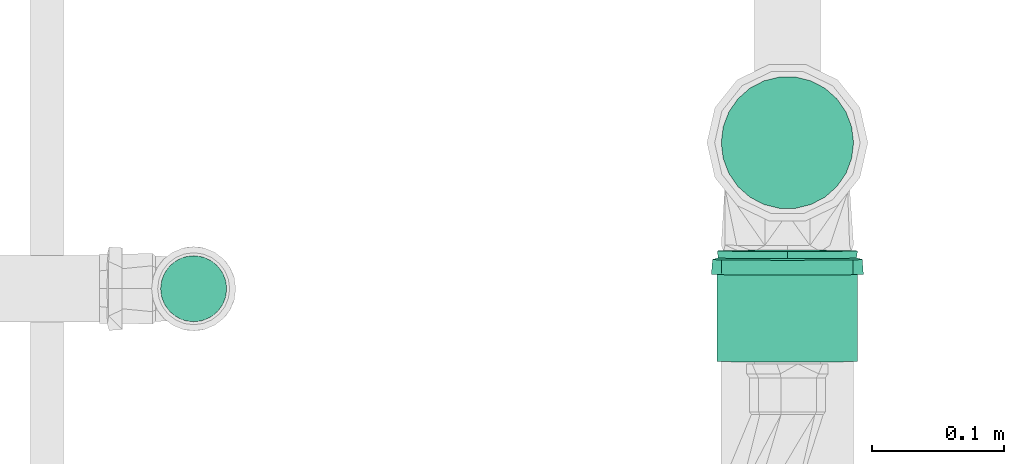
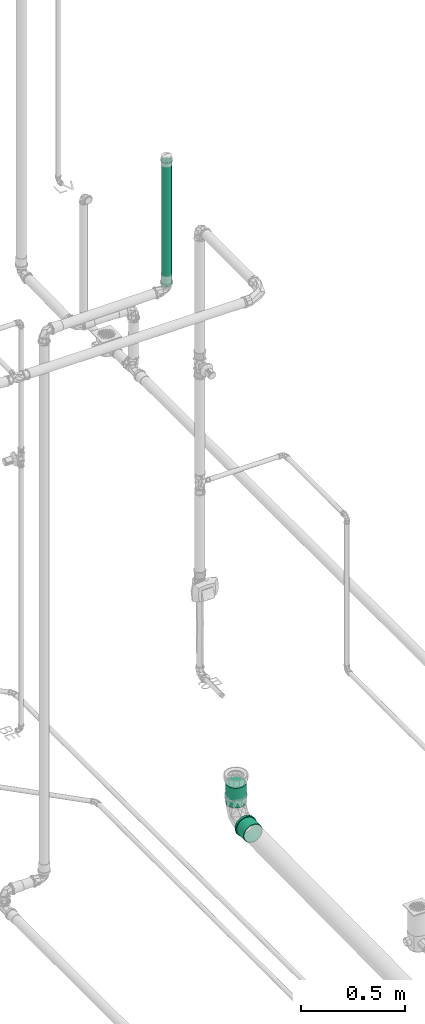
# One storey, part 159 of 589: 2 flow segments, 1 flow fitting.
"""IFC2X3 building model written with IfcOpenShell, lengths in millimetres."""

from ifc_helpers import new_model, entity, si_unit, converted_unit, derived_unit, direction, frame, origin, origin_2d_with_axis, place, context, subcontext, project, spatial, circle, extrude, faceted_brep, source, transform, mapped, material, type_object, type_shapes, element, save


model = new_model("IFC2X3")

# Units and contexts
model_context = context("Model", 3, precision=0.01, world=origin(), true_north=direction((6.123031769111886e-17, 1.0)))
body_context = subcontext(model_context, "Body", "Model", "MODEL_VIEW")
ifc_project = project(units=[si_unit("LENGTHUNIT", "METRE", prefix="MILLI"), si_unit("AREAUNIT", "SQUARE_METRE"), si_unit("VOLUMEUNIT", "CUBIC_METRE"), converted_unit("PLANEANGLEUNIT", "DEGREE", entity("IfcRatioMeasure", 0.017453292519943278), si_unit("PLANEANGLEUNIT", "RADIAN"), dimensions=[0, 0, 0, 0, 0, 0, 0]), si_unit("MASSUNIT", "GRAM", prefix="KILO"), derived_unit("MASSDENSITYUNIT", [(si_unit("MASSUNIT", "GRAM", prefix="KILO"), 1), (si_unit("LENGTHUNIT", "METRE"), -3)]), derived_unit("IONCONCENTRATIONUNIT", [(si_unit("MASSUNIT", "GRAM", prefix="KILO"), 1), (si_unit("LENGTHUNIT", "METRE"), -3)]), derived_unit("MOMENTOFINERTIAUNIT", [(si_unit("LENGTHUNIT", "METRE"), 4)]), si_unit("TIMEUNIT", "SECOND"), si_unit("FREQUENCYUNIT", "HERTZ"), si_unit("THERMODYNAMICTEMPERATUREUNIT", "DEGREE_CELSIUS"), derived_unit("THERMALTRANSMITTANCEUNIT", [(si_unit("MASSUNIT", "GRAM", prefix="KILO"), 1), (si_unit("THERMODYNAMICTEMPERATUREUNIT", "KELVIN"), -1), (si_unit("TIMEUNIT", "SECOND"), -3)]), derived_unit("THERMALCONDUCTANCEUNIT", [(si_unit("MASSUNIT", "GRAM", prefix="KILO"), 1), (si_unit("THERMODYNAMICTEMPERATUREUNIT", "KELVIN"), -1), (si_unit("TIMEUNIT", "SECOND"), -3), (si_unit("LENGTHUNIT", "METRE"), 1)]), derived_unit("VOLUMETRICFLOWRATEUNIT", [(si_unit("LENGTHUNIT", "METRE"), 3), (si_unit("TIMEUNIT", "SECOND"), -1)]), derived_unit("MASSFLOWRATEUNIT", [(si_unit("MASSUNIT", "GRAM", prefix="KILO"), 1), (si_unit("TIMEUNIT", "SECOND"), -1)]), derived_unit("ROTATIONALFREQUENCYUNIT", [(si_unit("TIMEUNIT", "SECOND"), -1)]), si_unit("ELECTRICCURRENTUNIT", "AMPERE"), si_unit("ELECTRICVOLTAGEUNIT", "VOLT"), si_unit("POWERUNIT", "WATT"), si_unit("FORCEUNIT", "NEWTON", prefix="KILO"), si_unit("ILLUMINANCEUNIT", "LUX"), si_unit("LUMINOUSFLUXUNIT", "LUMEN"), si_unit("LUMINOUSINTENSITYUNIT", "CANDELA"), derived_unit("USERDEFINED", [(si_unit("MASSUNIT", "GRAM", prefix="KILO"), -1), (si_unit("LENGTHUNIT", "METRE"), -2), (si_unit("TIMEUNIT", "SECOND"), 3), (si_unit("LUMINOUSFLUXUNIT", "LUMEN"), 1)]), derived_unit("USERDEFINED", [(si_unit("MASSUNIT", "GRAM", prefix="KILO"), 1), (si_unit("TIMEUNIT", "SECOND"), -3), (si_unit("LENGTHUNIT", "METRE"), 3), (si_unit("ELECTRICCURRENTUNIT", "AMPERE"), -2)]), derived_unit("SOUNDPOWERUNIT", [(si_unit("MASSUNIT", "GRAM", prefix="KILO"), 1), (si_unit("TIMEUNIT", "SECOND"), -3), (si_unit("LENGTHUNIT", "METRE"), 2)]), derived_unit("SOUNDPRESSUREUNIT", [(si_unit("MASSUNIT", "GRAM", prefix="KILO"), 1), (si_unit("LENGTHUNIT", "METRE"), -1), (si_unit("TIMEUNIT", "SECOND"), -2)]), derived_unit("LINEARVELOCITYUNIT", [(si_unit("LENGTHUNIT", "METRE"), 1), (si_unit("TIMEUNIT", "SECOND"), -1)]), si_unit("PRESSUREUNIT", "PASCAL"), derived_unit("USERDEFINED", [(si_unit("MASSUNIT", "GRAM", prefix="KILO"), 1), (si_unit("LENGTHUNIT", "METRE"), -2), (si_unit("TIMEUNIT", "SECOND"), -2)]), derived_unit("LINEARFORCEUNIT", [(si_unit("MASSUNIT", "GRAM", prefix="KILO"), 1), (si_unit("TIMEUNIT", "SECOND"), -2)]), derived_unit("PLANARFORCEUNIT", [(si_unit("MASSUNIT", "GRAM", prefix="KILO"), 1), (si_unit("LENGTHUNIT", "METRE"), -1), (si_unit("TIMEUNIT", "SECOND"), -2)]), derived_unit("SPECIFICHEATCAPACITYUNIT", [(si_unit("THERMODYNAMICTEMPERATUREUNIT", "KELVIN"), -1), (si_unit("LENGTHUNIT", "METRE"), 2), (si_unit("TIMEUNIT", "SECOND"), -2)]), derived_unit("HEATINGVALUEUNIT", [(si_unit("LENGTHUNIT", "METRE"), 2), (si_unit("TIMEUNIT", "SECOND"), -2)]), derived_unit("VAPORPERMEABILITYUNIT", [(si_unit("LENGTHUNIT", "METRE"), -1), (si_unit("TIMEUNIT", "SECOND"), 1)]), derived_unit("DYNAMICVISCOSITYUNIT", [(si_unit("MASSUNIT", "GRAM", prefix="KILO"), 1), (si_unit("TIMEUNIT", "SECOND"), -1), (si_unit("LENGTHUNIT", "METRE"), -1)]), derived_unit("THERMALEXPANSIONCOEFFICIENTUNIT", [(si_unit("THERMODYNAMICTEMPERATUREUNIT", "KELVIN"), -1)]), derived_unit("MODULUSOFELASTICITYUNIT", [(si_unit("MASSUNIT", "GRAM", prefix="KILO"), 1), (si_unit("LENGTHUNIT", "METRE"), -1), (si_unit("TIMEUNIT", "SECOND"), -2)]), derived_unit("ISOTHERMALMOISTURECAPACITYUNIT", [(si_unit("LENGTHUNIT", "METRE"), 3), (si_unit("MASSUNIT", "GRAM", prefix="KILO"), -1)]), derived_unit("MOISTUREDIFFUSIVITYUNIT", [(si_unit("TIMEUNIT", "SECOND"), -1), (si_unit("LENGTHUNIT", "METRE"), 2)])], contexts=[model_context])

# Site, building, storey
site_placement = place(None, origin())
site = spatial("IfcSite", under=ifc_project, at=site_placement, Name="Default", CompositionType="ELEMENT")
building_placement = place(site_placement, origin())
building = spatial("IfcBuilding", under=site, at=building_placement, CompositionType="ELEMENT")
storey_placement = place(building_placement, frame((0.0, 0.0, 100.0)))
storey = spatial("IfcBuildingStorey", under=building, at=storey_placement, Name="TÉRREO", CompositionType="ELEMENT", Elevation=100.0)

# Flow segments
pipe_segment_type = type_object("IfcPipeSegmentType", Name="Tipos de tubos:PVC Esgoto Série Normal", PredefinedType="NOTDEFINED")
flow_segment_1_placement = place(storey_placement, origin())
element("IfcFlowSegment", 1, at=flow_segment_1_placement, inside=storey, type_object=pipe_segment_type, Name="Tipos de tubos:PVC Esgoto Série Normal", ObjectType="Tipos de tubos:PVC Esgoto Série Normal", context=body_context, shape_type="SweptSolid", body=[
    extrude(circle(Radius=50.0, at=origin_2d_with_axis()), frame((8798.14218843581, -8312.5312838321, -165.97769235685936)), (0.0, 0.0, 1.0), 115.97769235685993),
])
flow_segment_2_placement = place(storey_placement, origin())
element("IfcFlowSegment", 2, at=flow_segment_2_placement, inside=storey, type_object=pipe_segment_type, Name="Tipos de tubos:PVC Esgoto Série Normal", ObjectType="Tipos de tubos:PVC Esgoto Série Normal", context=body_context, shape_type="SweptSolid", body=[
    extrude(circle(Radius=25.0, at=origin_2d_with_axis()), frame((8349.442851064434, -8422.906307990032, 3099.9412999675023), z_axis=(0.0, 0.0, 1.0), x_axis=(-1.0, 0.0, 0.0)), (0.0, 0.0, 1.0), 727.7587000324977),
])

# Flow fitting
ifc_material = material(Name="PVC Série Normal")
pipe_fitting_type = type_object("IfcPipeFittingType", Name="PVC Esgoto_Luva Simples para Conexão_Rodrigo MEP:Standard", PredefinedType="NOTDEFINED", material=ifc_material)
shared_shape = source(origin(), body_context, "Body", "Brep", [
    faceted_brep([(17.770000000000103, 28.72500000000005, -49.753159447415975), (17.770000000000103, 40.62328457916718, -40.62328457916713), (17.770000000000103, 26.524999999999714, -45.94264767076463), (17.770000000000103, 13.730350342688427, -51.242365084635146), (17.770000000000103, 14.86915414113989, -55.49243872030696), (17.770000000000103, 37.5120147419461, -37.51201474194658), (17.770000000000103, 49.75315944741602, -28.724999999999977), (17.770000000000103, 45.94264767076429, -26.52500000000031), (17.770000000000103, 51.24236508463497, -13.730350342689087), (17.770000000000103, 55.49243872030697, -14.869154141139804), (17.770000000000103, 53.05, 0.0), (17.770000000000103, 57.45, 0.0), (17.770000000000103, 51.242365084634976, 13.730350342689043), (17.770000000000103, 55.49243872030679, 14.869154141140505), (17.770000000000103, 45.942647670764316, 26.52500000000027), (17.770000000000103, 49.753159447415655, 28.725000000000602), (17.770000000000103, 37.51201474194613, 37.51201474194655), (17.770000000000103, 40.62328457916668, 40.62328457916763), (17.770000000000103, 26.524999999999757, 45.9426476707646), (17.770000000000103, 28.72499999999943, 49.75315944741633), (17.770000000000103, 13.730350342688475, 51.24236508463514), (17.770000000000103, 14.8691541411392, 55.49243872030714), (17.770000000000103, 0.0, 53.05), (17.770000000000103, 0.0, 57.45), (17.770000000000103, -13.730350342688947, 51.24236508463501), (17.770000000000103, -14.869154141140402, 55.49243872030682), (17.770000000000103, -26.52500000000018, 45.94264767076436), (17.770000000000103, -28.725000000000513, 49.753159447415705), (17.770000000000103, -37.51201474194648, 37.5120147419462), (17.770000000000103, -40.62328457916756, 40.62328457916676), (17.770000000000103, -45.94264767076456, 26.524999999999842), (17.770000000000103, -49.7531594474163, 28.724999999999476), (17.770000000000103, -55.49243872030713, 14.869154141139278), (17.770000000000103, -51.24236508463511, 13.730350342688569), (17.770000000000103, -57.45, 0.0), (17.770000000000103, -53.05, 0.0), (17.770000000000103, -55.49243872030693, -14.86915414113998), (17.770000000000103, -51.24236508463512, -13.73035034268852), (17.770000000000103, -49.75315944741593, -28.72500000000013), (17.770000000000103, -45.942647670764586, -26.5249999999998), (17.770000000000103, -40.62328457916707, -40.62328457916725), (17.770000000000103, -37.512014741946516, -37.51201474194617), (17.770000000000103, -28.724999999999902, -49.75315944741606), (17.770000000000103, -26.525000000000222, -45.94264767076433), (17.770000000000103, -14.869154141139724, -55.492438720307), (17.770000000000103, -13.730350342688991, -51.242365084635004), (17.770000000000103, 0.0, -57.45), (17.770000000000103, 0.0, -53.05), (6.570000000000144, -19.34638876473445, 53.16657713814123), (6.57000000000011, -44.00761900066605, 36.93009572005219), (6.5700000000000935, -48.99626263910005, 28.290173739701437), (6.5700000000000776, -53.98490627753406, 19.65025175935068), (6.570000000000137, -28.721697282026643, 49.75506612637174), (6.570000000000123, -36.36465814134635, 43.34258092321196), (6.57000000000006, -55.71745313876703, 9.825125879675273), (6.570000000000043, -57.45, 0.0), (6.570000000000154, -9.971080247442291, 56.57808814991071), (6.570000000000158, 9.98234714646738, 56.576101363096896), (6.570000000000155, 0.005633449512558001, 56.577094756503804), (6.570000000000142, 36.37328876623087, 43.33533831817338), (6.570000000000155, 19.356976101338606, 53.16272339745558), (6.570000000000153, 28.73160505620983, 49.749345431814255), (6.5700000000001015, 53.988818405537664, 19.639500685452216), (6.570000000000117, 49.00189544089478, 28.280415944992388), (6.570000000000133, 44.01497247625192, 36.921331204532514), (6.570000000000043, 57.45, 0.0), (6.569999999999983, 44.01497247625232, -36.92133120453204), (6.569999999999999, 49.0018954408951, -28.280415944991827), (6.570000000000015, 53.98881840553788, -19.63950068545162), (6.569999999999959, 28.731605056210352, -49.74934543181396), (6.569999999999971, 36.37328876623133, -43.335338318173), (6.569999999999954, 19.35697610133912, -53.16272339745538), (6.569999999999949, 9.982347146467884, -56.57610136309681), (6.569999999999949, -9.97108024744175, -56.578088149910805), (6.569999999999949, 0.005633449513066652, -56.577094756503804), (6.569999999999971, -36.364658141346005, -43.34258092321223), (6.56999999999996, -28.72169728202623, -49.755066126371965), (6.569999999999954, -19.346388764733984, -53.16657713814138), (6.57000000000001, -53.984906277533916, -19.650251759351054), (6.569999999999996, -48.99626263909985, -28.290173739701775), (6.569999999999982, -44.007619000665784, -36.93009572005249), (6.570000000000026, -55.717453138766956, -9.825125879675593), (83.52000000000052, 26.525000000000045, -45.942647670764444), (83.52000000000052, 37.512014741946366, -37.51201474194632), (83.52000000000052, 25.0, -43.301270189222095), (83.52000000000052, 12.940952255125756, -48.2962913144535), (83.52000000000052, 13.73035034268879, -51.242365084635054), (83.52000000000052, 35.35533905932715, -35.355339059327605), (83.52000000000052, 45.94264767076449, -26.524999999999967), (83.52000000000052, 43.30127018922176, -25.0), (83.52000000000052, 48.29629131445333, -12.940952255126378), (83.52000000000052, 51.24236508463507, -13.730350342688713), (83.52000000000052, 50.0, 0.0), (83.52000000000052, 53.05, 0.0), (83.52000000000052, 48.296291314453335, 12.940952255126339), (83.52000000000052, 51.2423650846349, 13.73035034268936), (83.52000000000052, 43.30127018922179, 25.0), (83.52000000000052, 45.942647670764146, 26.525000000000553), (83.52000000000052, 35.35533905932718, 35.35533905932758), (83.52000000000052, 37.512014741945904, 37.512014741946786), (83.52000000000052, 25.0, 43.301270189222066), (83.52000000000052, 26.52499999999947, 45.94264767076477), (83.52000000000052, 12.9409522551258, 48.29629131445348), (83.52000000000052, 13.730350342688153, 51.242365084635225), (83.52000000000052, 0.0, 50.0), (83.52000000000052, 0.0, 53.05), (83.52000000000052, -12.94095225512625, 48.296291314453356), (83.52000000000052, -13.730350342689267, 51.24236508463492), (83.52000000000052, -25.0, 43.30127018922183), (83.52000000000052, -26.525000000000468, 45.942647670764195), (83.52000000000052, -35.355339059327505, 35.35533905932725), (83.52000000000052, -37.512014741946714, 37.51201474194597), (83.52000000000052, -43.30127018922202, 25.0), (83.52000000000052, -45.942647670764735, 26.524999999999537), (83.52000000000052, -51.24236508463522, 13.730350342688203), (83.52000000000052, -48.29629131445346, 12.94095225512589), (83.52000000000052, -53.05, 0.0), (83.52000000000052, -50.0, 0.0), (83.52000000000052, -51.242365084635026, -13.730350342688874), (83.52000000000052, -48.29629131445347, -12.940952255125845), (83.52000000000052, -45.9426476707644, -26.525000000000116), (83.52000000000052, -43.301270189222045, -25.0), (83.52000000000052, -37.51201474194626, -37.51201474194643), (83.52000000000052, -35.35533905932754, -35.355339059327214), (83.52000000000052, -26.524999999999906, -45.94264767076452), (83.52000000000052, -25.0, -43.30127018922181), (83.52000000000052, -13.730350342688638, -51.2423650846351), (83.52000000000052, -12.94095225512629, -48.29629131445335), (83.52000000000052, 0.0, -53.05), (83.52000000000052, 0.0, -50.0), (0.0, 25.0, -43.301270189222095), (0.0, 37.512014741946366, -37.51201474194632), (0.0, 26.525000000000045, -45.942647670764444), (0.0, 12.940952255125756, -48.2962913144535), (0.0, 35.35533905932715, -35.355339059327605), (0.0, 45.94264767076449, -26.524999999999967), (0.0, 43.30127018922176, -25.0), (0.0, 48.29629131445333, -12.940952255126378), (0.0, 51.24236508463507, -13.730350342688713), (0.0, 50.0, 0.0), (0.0, 53.05, 0.0), (0.0, 48.296291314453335, 12.940952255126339), (0.0, 51.2423650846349, 13.73035034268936), (0.0, 43.30127018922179, 25.0), (0.0, 45.942647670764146, 26.525000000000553), (0.0, 35.35533905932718, 35.35533905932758), (0.0, 37.512014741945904, 37.512014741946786), (0.0, 25.0, 43.301270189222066), (0.0, 26.52499999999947, 45.94264767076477), (0.0, 12.9409522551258, 48.29629131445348), (0.0, 13.730350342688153, 51.242365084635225), (0.0, 0.0, 50.0), (0.0, 0.0, 53.05), (0.0, -12.94095225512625, 48.296291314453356), (0.0, -13.730350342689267, 51.24236508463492), (0.0, -25.0, 43.30127018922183), (0.0, -26.525000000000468, 45.942647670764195), (0.0, -35.355339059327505, 35.35533905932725), (0.0, -37.512014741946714, 37.51201474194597), (0.0, -43.30127018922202, 25.0), (0.0, -45.942647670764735, 26.524999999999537), (0.0, -51.24236508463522, 13.730350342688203), (0.0, -48.29629131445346, 12.94095225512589), (0.0, -53.05, 0.0), (0.0, -50.0, 0.0), (0.0, -51.242365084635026, -13.730350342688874), (0.0, -48.29629131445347, -12.940952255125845), (0.0, -45.9426476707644, -26.525000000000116), (0.0, -43.301270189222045, -25.0), (0.0, -37.51201474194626, -37.51201474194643), (0.0, -35.35533905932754, -35.355339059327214), (0.0, -26.524999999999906, -45.94264767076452), (0.0, -25.0, -43.30127018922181), (0.0, -13.730350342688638, -51.2423650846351), (0.0, -12.94095225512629, -48.29629131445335), (0.0, 0.0, -53.05), (0.0, 0.0, -50.0), (0.0, 13.73035034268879, -51.242365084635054), (5.370000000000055, -53.05, 0.0), (5.370000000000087, -49.85079898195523, 18.143878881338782), (5.370000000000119, -40.63905406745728, 34.09941032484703), (5.370000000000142, -26.525801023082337, 45.942185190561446), (5.3700000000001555, -9.213250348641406, 52.24383712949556), (5.370000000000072, 51.44992493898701, 9.073243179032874), (5.370000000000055, 53.05, 0.0), (5.370000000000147, 26.523397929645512, 45.943572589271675), (5.370000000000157, 9.210517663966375, 52.244318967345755), (5.3700000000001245, 40.63727040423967, 34.10153594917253), (5.370000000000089, 49.84984987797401, 18.146486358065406), (5.370000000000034, 51.4499249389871, -9.073243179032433), (5.370000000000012, 49.84984987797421, -18.146486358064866), (5.369999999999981, 40.63727040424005, -34.101535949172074), (5.36999999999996, 26.523397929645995, -45.9435725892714), (5.369999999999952, 9.21051766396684, -52.24431896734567), (5.369999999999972, -26.52580102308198, -45.94218519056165), (5.369999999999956, -9.213250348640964, -52.24383712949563), (5.369999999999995, -40.63905406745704, -34.099410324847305), (5.370000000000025, -49.8507989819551, -18.143878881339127), (50.0, -50.0, 0.0), (50.0, 50.0, 0.0)], [[[0, 1, 2]], [[0, 2, 3]], [[3, 4, 0]], [[2, 1, 5]], [[6, 5, 1]], [[5, 6, 7]], [[7, 6, 8]], [[9, 8, 6]], [[9, 10, 8]], [[10, 9, 11]], [[12, 10, 11]], [[11, 13, 12]], [[12, 13, 14]], [[15, 14, 13]], [[14, 15, 16]], [[16, 15, 17]], [[18, 16, 17]], [[17, 19, 18]], [[18, 19, 20]], [[21, 20, 19]], [[20, 21, 22]], [[22, 21, 23]], [[22, 23, 24]], [[24, 23, 25]], [[24, 25, 26]], [[27, 26, 25]], [[27, 28, 26]], [[28, 27, 29]], [[29, 30, 28]], [[31, 30, 29]], [[30, 31, 32]], [[32, 33, 30]], [[34, 33, 32]], [[34, 35, 33]], [[36, 35, 34]], [[36, 37, 35]], [[37, 36, 38]], [[38, 39, 37]], [[39, 38, 40]], [[39, 40, 41]], [[40, 42, 41]], [[41, 42, 43]], [[43, 42, 44]], [[44, 45, 43]], [[46, 45, 44]], [[4, 47, 46]], [[46, 47, 45]], [[4, 3, 47]], [[48, 27, 25]], [[31, 29, 49]], [[31, 49, 50, 51]], [[52, 53, 27]], [[32, 51, 54]], [[54, 55, 34]], [[54, 34, 32]], [[25, 56, 48]], [[49, 29, 53]], [[23, 57, 58, 56]], [[59, 19, 17]], [[27, 53, 29]], [[48, 52, 27]], [[31, 51, 32]], [[57, 23, 21]], [[60, 19, 61]], [[15, 62, 63, 64]], [[19, 60, 21]], [[15, 13, 62]], [[17, 64, 59]], [[57, 21, 60]], [[23, 56, 25]], [[15, 64, 17]], [[13, 65, 62]], [[13, 11, 65]], [[59, 61, 19]], [[65, 11, 9]], [[6, 1, 66]], [[6, 66, 67, 68]], [[69, 70, 0]], [[68, 65, 9]], [[71, 69, 0]], [[71, 0, 4]], [[4, 72, 71]], [[66, 1, 70]], [[46, 73, 74, 72]], [[75, 76, 42]], [[0, 70, 1]], [[75, 42, 40]], [[6, 68, 9]], [[73, 46, 44]], [[77, 42, 76]], [[38, 78, 79, 80]], [[42, 77, 44]], [[38, 36, 78]], [[40, 80, 75]], [[73, 44, 77]], [[46, 72, 4]], [[38, 80, 40]], [[81, 78, 36]], [[55, 81, 34]], [[34, 81, 36]], [[82, 83, 84]], [[82, 84, 85]], [[85, 86, 82]], [[84, 83, 87]], [[88, 87, 83]], [[87, 88, 89]], [[89, 88, 90]], [[91, 90, 88]], [[91, 92, 90]], [[92, 91, 93]], [[94, 92, 93]], [[93, 95, 94]], [[94, 95, 96]], [[97, 96, 95]], [[96, 97, 98]], [[98, 97, 99]], [[100, 98, 99]], [[99, 101, 100]], [[100, 101, 102]], [[103, 102, 101]], [[102, 103, 104]], [[104, 103, 105]], [[104, 105, 106]], [[106, 105, 107]], [[106, 107, 108]], [[109, 108, 107]], [[110, 108, 109]], [[110, 109, 111]], [[111, 112, 110]], [[113, 112, 111]], [[112, 113, 114]], [[114, 115, 112]], [[116, 115, 114]], [[116, 117, 115]], [[118, 117, 116]], [[118, 119, 117]], [[119, 118, 120]], [[120, 121, 119]], [[121, 120, 122]], [[121, 122, 123]], [[122, 124, 123]], [[125, 123, 124]], [[125, 124, 126]], [[126, 127, 125]], [[128, 127, 126]], [[86, 129, 128]], [[128, 129, 127]], [[86, 85, 129]], [[130, 131, 132]], [[133, 130, 132]], [[134, 131, 130]], [[131, 134, 135]], [[136, 135, 134]], [[137, 135, 136]], [[135, 137, 138]], [[137, 139, 138]], [[140, 138, 139]], [[140, 139, 141]], [[141, 142, 140]], [[143, 142, 141]], [[142, 143, 144]], [[145, 144, 143]], [[146, 144, 145]], [[146, 145, 147]], [[147, 148, 146]], [[149, 148, 147]], [[148, 149, 150]], [[151, 150, 149]], [[152, 150, 151]], [[153, 152, 151]], [[154, 152, 153]], [[155, 154, 153]], [[154, 155, 156]], [[156, 155, 157]], [[158, 156, 157]], [[157, 159, 158]], [[158, 159, 160]], [[161, 160, 159]], [[159, 162, 161]], [[161, 162, 163]], [[162, 164, 163]], [[163, 164, 165]], [[164, 166, 165]], [[167, 165, 166]], [[166, 168, 167]], [[169, 167, 168]], [[170, 169, 168]], [[170, 171, 169]], [[171, 170, 172]], [[173, 171, 172]], [[172, 174, 173]], [[173, 174, 175]], [[174, 176, 175]], [[176, 133, 177]], [[175, 176, 177]], [[132, 177, 133]], [[161, 178, 179]], [[158, 180, 181]], [[179, 180, 160]], [[181, 182, 154]], [[179, 160, 161]], [[161, 163, 178]], [[35, 116, 114, 33]], [[183, 184, 140]], [[181, 156, 158]], [[158, 160, 180]], [[181, 154, 156]], [[182, 152, 154]], [[183, 140, 142]], [[185, 150, 186]], [[187, 146, 185]], [[142, 188, 183]], [[187, 188, 144]], [[185, 148, 150]], [[150, 152, 186]], [[187, 144, 146]], [[146, 148, 185]], [[188, 142, 144]], [[186, 152, 182]], [[189, 190, 138]], [[131, 191, 192]], [[190, 191, 135]], [[192, 193, 177]], [[190, 135, 138]], [[184, 189, 140]], [[192, 132, 131]], [[131, 135, 191]], [[192, 177, 132]], [[193, 175, 177]], [[140, 189, 138]], [[194, 173, 195]], [[196, 169, 194]], [[165, 197, 178]], [[196, 197, 167]], [[165, 178, 163]], [[35, 37, 118, 116]], [[194, 171, 173]], [[173, 175, 195]], [[196, 167, 169]], [[169, 171, 194]], [[197, 165, 167]], [[195, 175, 193]], [[115, 117, 198, 164, 162]], [[155, 108, 110, 157]], [[110, 112, 159, 157]], [[112, 115, 162, 159]], [[106, 108, 155, 153]], [[153, 151, 104, 106]], [[102, 104, 151, 149]], [[102, 149, 147, 100]], [[141, 94, 96, 143]], [[96, 98, 145, 143]], [[98, 100, 147, 145]], [[92, 94, 141, 139, 199]], [[199, 139, 137, 90, 92]], [[87, 89, 136, 134]], [[134, 130, 84, 87]], [[89, 90, 137, 136]], [[85, 84, 130, 133]], [[133, 176, 129, 85]], [[127, 129, 176, 174]], [[127, 174, 172, 125]], [[166, 119, 121, 168]], [[121, 123, 170, 168]], [[123, 125, 172, 170]], [[117, 119, 166, 164, 198]], [[81, 178, 197]], [[190, 68, 67]], [[194, 75, 196]], [[193, 72, 74]], [[195, 77, 194]], [[79, 197, 196]], [[81, 55, 178]], [[192, 69, 71]], [[79, 78, 197]], [[194, 77, 76]], [[191, 66, 70]], [[80, 196, 75]], [[68, 190, 189]], [[74, 195, 193]], [[192, 71, 193]], [[190, 67, 191]], [[70, 192, 191]], [[65, 189, 184]], [[195, 73, 77]], [[193, 71, 72]], [[197, 78, 81]], [[191, 67, 66]], [[189, 65, 68]], [[196, 80, 79]], [[70, 69, 192]], [[194, 76, 75]], [[73, 195, 74]], [[65, 183, 62]], [[48, 56, 182]], [[58, 182, 56]], [[54, 51, 179]], [[59, 185, 61]], [[60, 186, 57]], [[53, 52, 181]], [[63, 187, 64]], [[58, 57, 186]], [[187, 63, 188]], [[186, 60, 185]], [[50, 49, 180]], [[185, 59, 187]], [[59, 64, 187]], [[182, 58, 186]], [[50, 179, 51]], [[54, 178, 55]], [[53, 180, 49]], [[63, 62, 188]], [[181, 48, 182]], [[183, 65, 184]], [[179, 50, 180]], [[178, 54, 179]], [[183, 188, 62]], [[180, 53, 181]], [[60, 61, 185]], [[48, 181, 52]], [[30, 33, 114, 113]], [[26, 28, 111, 109]], [[113, 111, 28, 30]], [[107, 24, 26, 109]], [[107, 105, 22, 24]], [[18, 20, 103, 101]], [[99, 16, 18, 101]], [[12, 14, 97, 95]], [[99, 97, 14, 16]], [[10, 12, 95, 93]], [[103, 20, 22, 105]], [[91, 8, 10, 93]], [[88, 7, 8, 91]], [[82, 86, 3, 2]], [[83, 5, 7, 88]], [[2, 5, 83, 82]], [[86, 128, 47, 3]], [[43, 45, 126, 124]], [[122, 41, 43, 124]], [[37, 39, 120, 118]], [[122, 120, 39, 41]], [[126, 45, 47, 128]]]),
])
type_shapes(pipe_fitting_type, [shared_shape])
flow_fitting_placement = place(storey_placement, frame((8798.14218843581, -8394.25109784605, -248.5187903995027), z_axis=(-1.0, 0.0, 0.0), x_axis=(0.0, -0.9999500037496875, -0.009999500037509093)))
element("IfcFlowFitting", 3, at=flow_fitting_placement, inside=storey, type_object=pipe_fitting_type, material=ifc_material, Name="PVC Esgoto_Luva Simples para Conexão_Rodrigo MEP:Standard", ObjectType="PVC Esgoto_Luva Simples para Conexão_Rodrigo MEP:Standard", context=body_context, shape_type="MappedRepresentation", body=[
    mapped(shared_shape, transform((0.0, 0.0, 0.0), scale=1.0)),
])

save(model, "model.ifc")
